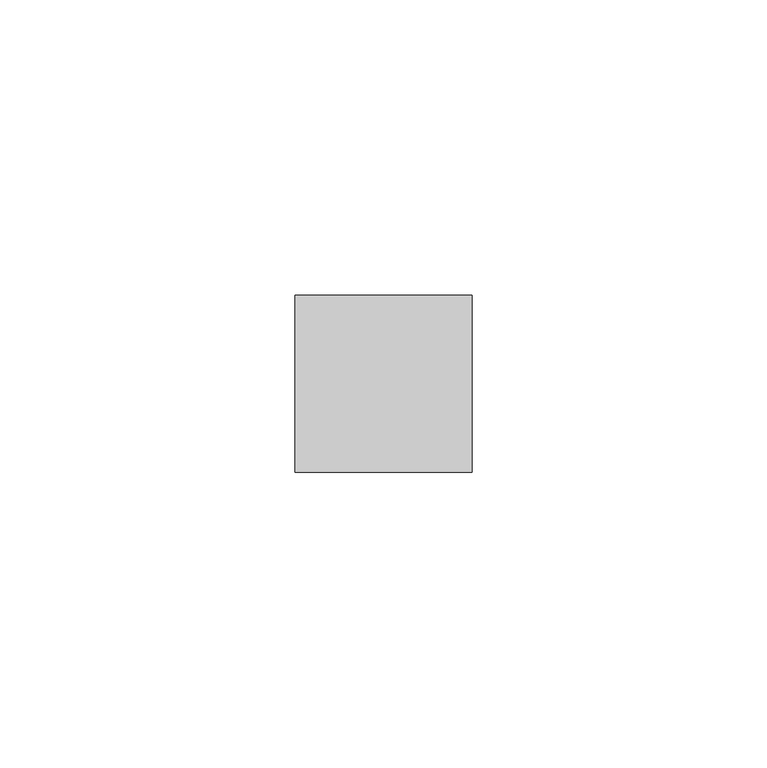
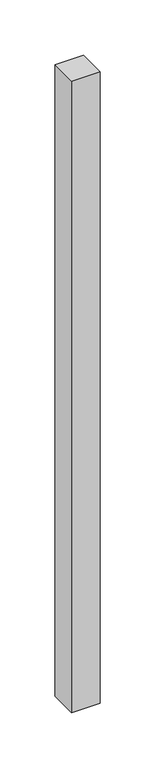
"""IFC4 building model written with IfcOpenShell, lengths in millimetres: member geometry, 矩形竖梃 : 30mm 正方形."""

from ifc_helpers import new_model, si_unit, frame, origin, place, context, project, spatial, polyline, outline, extrude, source, transform, mapped, element, save


def member_2ac2b3c5(model_context):
    return source(origin(), model_context, "Body", "SweptSolid", [
        extrude(outline(polyline([(0.0, 15.0), (0.0, -15.0), (-30.0, -15.0), (-30.0, 15.0), (0.0, 15.0)])), frame((0.0, 0.0, -700.0), z_axis=(0.0, 0.0, 1.0), x_axis=(1.0, 0.0, 0.0)), (0.0, 0.0, 1.0), 700.0),
    ])


if __name__ == "__main__":
    model = new_model("IFC4")
    model_context = context("Model", 3, world=origin())
    ifc_project = project(units=[si_unit("LENGTHUNIT", "METRE", prefix="MILLI")], contexts=[model_context])
    site = spatial("IfcSite", under=ifc_project)
    building = spatial("IfcBuilding", under=site)
    placement = place(None, origin())
    member_shape = member_2ac2b3c5(model_context)
    element("IfcMember", 1, ObjectType="矩形竖梃 : 30mm 正方形", at=placement, inside=building, context=model_context, shape_type="MappedRepresentation", body=[
        mapped(member_shape, transform((0.0, 0.0, 0.0), x_axis=(1.0, 0.0, 0.0), y_axis=(0.0, 1.0, 0.0), z_axis=(0.0, 0.0, 1.0))),
    ])
    save(model, "model.ifc")
